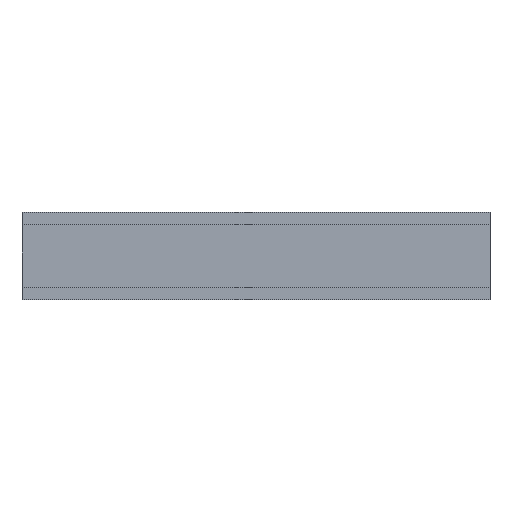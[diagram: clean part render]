
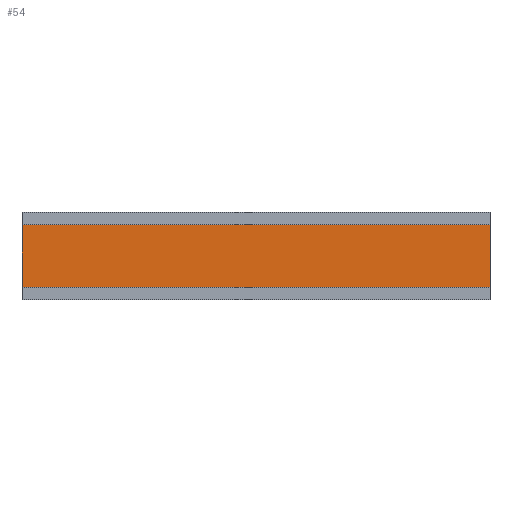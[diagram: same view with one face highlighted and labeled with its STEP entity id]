
A CAD part, top view. The second image highlights one B-rep face of the part: STEP entity #54.
In plain terms, the highlighted planar face has unit normal (0, 0, 1).
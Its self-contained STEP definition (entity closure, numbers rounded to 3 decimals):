
#54 = ADVANCED_FACE( '', ( #107 ), #108, .F. );
#107 = FACE_OUTER_BOUND( '', #156, .T. );
#108 = PLANE( '', #157 );
#156 = EDGE_LOOP( '', ( #255, #256, #257, #258 ) );
#157 = AXIS2_PLACEMENT_3D( '', #259, #260, #261 );
#255 = ORIENTED_EDGE( '', *, *, #305, .T. );
#256 = ORIENTED_EDGE( '', *, *, #343, .F. );
#257 = ORIENTED_EDGE( '', *, *, #340, .F. );
#258 = ORIENTED_EDGE( '', *, *, #344, .T. );
#259 = CARTESIAN_POINT( '', ( 187.2, 12.5, 1. ) );
#260 = DIRECTION( '', ( 0., 0., -1. ) );
#261 = DIRECTION( '', ( -1., 0., 0. ) );
#305 = EDGE_CURVE( '', #358, #356, #359, .T. );
#340 = EDGE_CURVE( '', #411, #413, #414, .T. );
#343 = EDGE_CURVE( '', #413, #356, #417, .T. );
#344 = EDGE_CURVE( '', #411, #358, #418, .T. );
#356 = VERTEX_POINT( '', #431 );
#358 = VERTEX_POINT( '', #434 );
#359 = LINE( '', #435, #436 );
#411 = VERTEX_POINT( '', #514 );
#413 = VERTEX_POINT( '', #517 );
#414 = LINE( '', #518, #519 );
#417 = LINE( '', #523, #524 );
#418 = LINE( '', #525, #526 );
#431 = CARTESIAN_POINT( '', ( 0., -12.5, 1. ) );
#434 = CARTESIAN_POINT( '', ( 0., 12.5, 1. ) );
#435 = CARTESIAN_POINT( '', ( 0., 12.5, 1. ) );
#436 = VECTOR( '', #538, 1000. );
#514 = CARTESIAN_POINT( '', ( 187.2, 12.5, 1. ) );
#517 = CARTESIAN_POINT( '', ( 187.2, -12.5, 1. ) );
#518 = CARTESIAN_POINT( '', ( 187.2, 12.5, 1. ) );
#519 = VECTOR( '', #566, 1000. );
#523 = CARTESIAN_POINT( '', ( 187.2, -12.5, 1. ) );
#524 = VECTOR( '', #568, 1000. );
#525 = CARTESIAN_POINT( '', ( 187.2, 12.5, 1. ) );
#526 = VECTOR( '', #569, 1000. );
#538 = DIRECTION( '', ( 0., -1., 0. ) );
#566 = DIRECTION( '', ( 0., -1., 0. ) );
#568 = DIRECTION( '', ( -1., 0., 0. ) );
#569 = DIRECTION( '', ( -1., 0., 0. ) );
